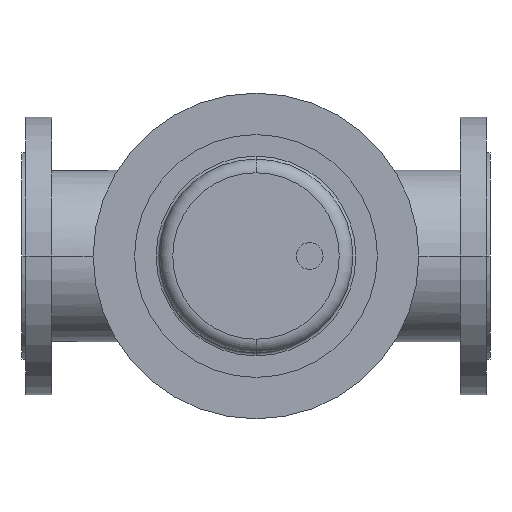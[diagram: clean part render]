
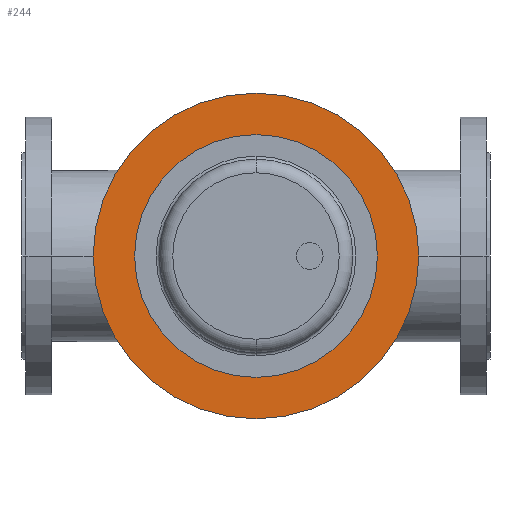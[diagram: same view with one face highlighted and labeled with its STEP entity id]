
A CAD part, front view. The second image highlights one B-rep face of the part: STEP entity #244.
In plain terms, the highlighted planar face has unit normal (0, -1, 0).
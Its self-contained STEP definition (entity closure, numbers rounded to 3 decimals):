
#244 = ADVANCED_FACE( '', ( #574, #575 ), #576, .T. );
#574 = FACE_OUTER_BOUND( '', #999, .T. );
#575 = FACE_BOUND( '', #1000, .T. );
#576 = PLANE( '', #1001 );
#999 = EDGE_LOOP( '', ( #2121, #2122 ) );
#1000 = EDGE_LOOP( '', ( #2123, #2124 ) );
#1001 = AXIS2_PLACEMENT_3D( '', #2125, #2126, #2127 );
#2121 = ORIENTED_EDGE( '', *, *, #2764, .F. );
#2122 = ORIENTED_EDGE( '', *, *, #2992, .F. );
#2123 = ORIENTED_EDGE( '', *, *, #2770, .T. );
#2124 = ORIENTED_EDGE( '', *, *, #2991, .T. );
#2125 = CARTESIAN_POINT( '', ( 343.5, -505.02, 0. ) );
#2126 = DIRECTION( '', ( 0., -1., 0. ) );
#2127 = DIRECTION( '', ( -1., 0., 0. ) );
#2764 = EDGE_CURVE( '', #3326, #3329, #3330, .T. );
#2770 = EDGE_CURVE( '', #3335, #3339, #3341, .T. );
#2991 = EDGE_CURVE( '', #3339, #3335, #3697, .T. );
#2992 = EDGE_CURVE( '', #3329, #3326, #3698, .T. );
#3326 = VERTEX_POINT( '', #4401 );
#3329 = VERTEX_POINT( '', #4405 );
#3330 = CIRCLE( '', #4406, 167. );
#3335 = VERTEX_POINT( '', #4412 );
#3339 = VERTEX_POINT( '', #4417 );
#3341 = CIRCLE( '', #4420, 40. );
#3697 = CIRCLE( '', #4838, 40. );
#3698 = CIRCLE( '', #4839, 167. );
#4401 = CARTESIAN_POINT( '', ( 407., -505.02, 0. ) );
#4405 = CARTESIAN_POINT( '', ( 73., -505.02, 0. ) );
#4406 = AXIS2_PLACEMENT_3D( '', #5632, #5633, #5634 );
#4412 = CARTESIAN_POINT( '', ( 280., -505.02, 0. ) );
#4417 = CARTESIAN_POINT( '', ( 200., -505.02, 0. ) );
#4420 = AXIS2_PLACEMENT_3D( '', #5644, #5645, #5646 );
#4838 = AXIS2_PLACEMENT_3D( '', #6183, #6184, #6185 );
#4839 = AXIS2_PLACEMENT_3D( '', #6186, #6187, #6188 );
#5632 = CARTESIAN_POINT( '', ( 240., -505.02, 0. ) );
#5633 = DIRECTION( '', ( 0., 1., 0. ) );
#5634 = DIRECTION( '', ( 1., 0., 0. ) );
#5644 = CARTESIAN_POINT( '', ( 240., -505.02, 0. ) );
#5645 = DIRECTION( '', ( 0., 1., 0. ) );
#5646 = DIRECTION( '', ( 1., 0., 0. ) );
#6183 = CARTESIAN_POINT( '', ( 240., -505.02, 0. ) );
#6184 = DIRECTION( '', ( 0., 1., 0. ) );
#6185 = DIRECTION( '', ( 1., 0., 0. ) );
#6186 = CARTESIAN_POINT( '', ( 240., -505.02, 0. ) );
#6187 = DIRECTION( '', ( 0., 1., 0. ) );
#6188 = DIRECTION( '', ( 1., 0., 0. ) );
